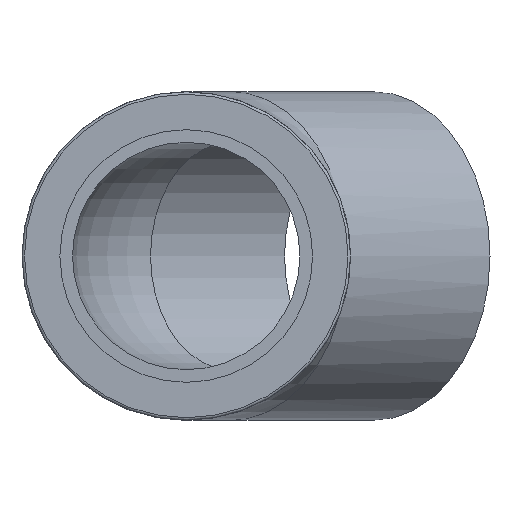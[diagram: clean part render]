
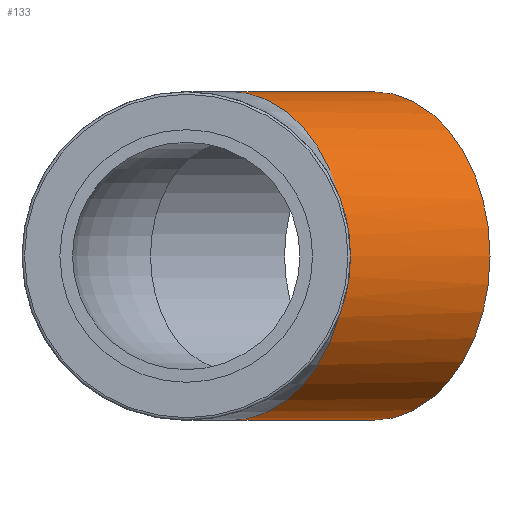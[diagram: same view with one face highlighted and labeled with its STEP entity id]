
A CAD part, left-side view. The second image highlights one B-rep face of the part: STEP entity #133.
In plain terms, the highlighted cylindrical face has radius 13 mm (diameter 26 mm), a full revolution.
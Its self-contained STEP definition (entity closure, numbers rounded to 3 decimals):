
#15=ELLIPSE('',#154,14.071,13.);
#23=CYLINDRICAL_SURFACE('',#153,13.);
#30=FACE_BOUND('',#58,.T.);
#41=FACE_OUTER_BOUND('',#57,.T.);
#57=EDGE_LOOP('',(#113,#114));
#58=EDGE_LOOP('',(#115));
#74=CIRCLE('',#152,13.);
#75=CIRCLE('',#155,13.);
#84=VERTEX_POINT('',#253);
#85=VERTEX_POINT('',#254);
#86=VERTEX_POINT('',#259);
#96=EDGE_CURVE('',#85,#84,#74,.T.);
#97=EDGE_CURVE('',#84,#85,#15,.T.);
#98=EDGE_CURVE('',#86,#86,#75,.T.);
#113=ORIENTED_EDGE('',*,*,#97,.F.);
#114=ORIENTED_EDGE('',*,*,#96,.F.);
#115=ORIENTED_EDGE('',*,*,#98,.T.);
#133=ADVANCED_FACE('',(#41,#30),#23,.T.);
#152=AXIS2_PLACEMENT_3D('',#256,#188,#189);
#153=AXIS2_PLACEMENT_3D('',#257,#190,#191);
#154=AXIS2_PLACEMENT_3D('',#258,#192,#193);
#155=AXIS2_PLACEMENT_3D('',#260,#194,#195);
#188=DIRECTION('center_axis',(-0.707,0.707,0.));
#189=DIRECTION('ref_axis',(0.,0.,-1.));
#190=DIRECTION('center_axis',(-0.707,0.707,0.));
#191=DIRECTION('ref_axis',(-0.707,-0.707,0.));
#192=DIRECTION('center_axis',(-0.924,0.383,0.));
#193=DIRECTION('ref_axis',(-0.383,-0.924,0.));
#194=DIRECTION('center_axis',(-0.707,0.707,0.));
#195=DIRECTION('ref_axis',(0.,0.,-1.));
#253=CARTESIAN_POINT('',(-5.,-12.071,-4.826));
#254=CARTESIAN_POINT('',(-5.,-12.071,4.826));
#256=CARTESIAN_POINT('Origin',(3.536,-3.536,0.));
#257=CARTESIAN_POINT('Origin',(9.192,-9.192,0.));
#258=CARTESIAN_POINT('Origin',(0.,0.,0.));
#259=CARTESIAN_POINT('',(5.657,-24.042,0.));
#260=CARTESIAN_POINT('Origin',(14.849,-14.849,0.));
